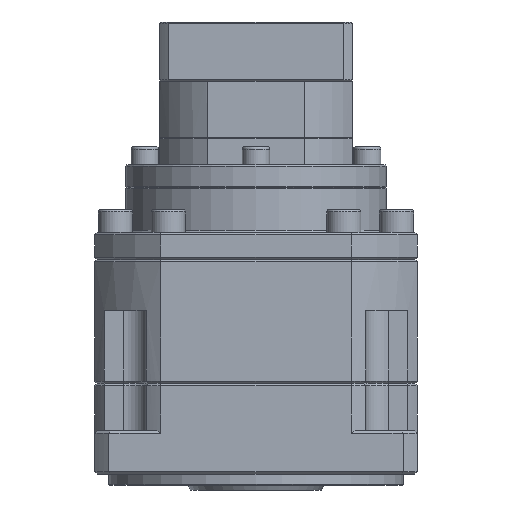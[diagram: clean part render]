
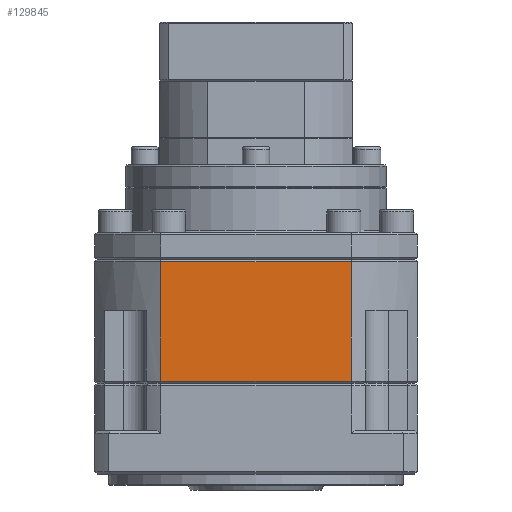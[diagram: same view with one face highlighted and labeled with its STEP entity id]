
A CAD part, front view. The second image highlights one B-rep face of the part: STEP entity #129845.
In plain terms, the highlighted planar face has unit normal (0, -1, 0).
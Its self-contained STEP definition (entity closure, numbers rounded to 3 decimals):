
#833 = CARTESIAN_POINT ( 'NONE',  ( -85.468, -71.589, 298.102 ) ) ;
#2453 = LINE ( 'NONE', #35805, #40786 ) ;
#5040 = VERTEX_POINT ( 'NONE', #66516 ) ;
#6697 = CARTESIAN_POINT ( 'NONE',  ( -85.468, -71.589, 299.102 ) ) ;
#7380 = LINE ( 'NONE', #122612, #82209 ) ;
#9127 = ORIENTED_EDGE ( 'NONE', *, *, #37117, .F. ) ;
#24899 = VERTEX_POINT ( 'NONE', #72143 ) ;
#31706 = CARTESIAN_POINT ( 'NONE',  ( 27.547, -71.589, 299.102 ) ) ;
#35805 = CARTESIAN_POINT ( 'NONE',  ( -1.438, -71.589, 299.102 ) ) ;
#37117 = EDGE_CURVE ( 'NONE', #134670, #24899, #2453, .T. ) ;
#39225 = CARTESIAN_POINT ( 'NONE',  ( -1.438, -71.589, 298.102 ) ) ;
#40786 = VECTOR ( 'NONE', #87879, 1000. ) ;
#43502 = VERTEX_POINT ( 'NONE', #833 ) ;
#48224 = VECTOR ( 'NONE', #55627, 1000. ) ;
#50250 = EDGE_CURVE ( 'NONE', #24899, #5040, #106378, .T. ) ;
#55627 = DIRECTION ( 'NONE',  ( -1., 0., 0. ) ) ;
#64358 = ORIENTED_EDGE ( 'NONE', *, *, #50250, .F. ) ;
#66516 = CARTESIAN_POINT ( 'NONE',  ( -85.468, -71.589, 245.602 ) ) ;
#70702 = PLANE ( 'NONE',  #84195 ) ;
#72143 = CARTESIAN_POINT ( 'NONE',  ( -1.438, -71.589, 245.602 ) ) ;
#76556 = FACE_OUTER_BOUND ( 'NONE', #92216, .T. ) ;
#81071 = DIRECTION ( 'NONE',  ( 0., 0., 1. ) ) ;
#82209 = VECTOR ( 'NONE', #100778, 1000. ) ;
#84195 = AXIS2_PLACEMENT_3D ( 'NONE', #31706, #105164, #106085 ) ;
#86743 = CARTESIAN_POINT ( 'NONE',  ( 27.547, -71.589, 245.602 ) ) ;
#86789 = EDGE_CURVE ( 'NONE', #5040, #43502, #109239, .T. ) ;
#87879 = DIRECTION ( 'NONE',  ( 0., 0., -1. ) ) ;
#92216 = EDGE_LOOP ( 'NONE', ( #135502, #136897, #64358, #9127 ) ) ;
#100778 = DIRECTION ( 'NONE',  ( 1., 0., 0. ) ) ;
#105164 = DIRECTION ( 'NONE',  ( 0., 1., 0. ) ) ;
#106085 = DIRECTION ( 'NONE',  ( -1., 0., 0. ) ) ;
#106378 = LINE ( 'NONE', #86743, #48224 ) ;
#109239 = LINE ( 'NONE', #6697, #115901 ) ;
#115901 = VECTOR ( 'NONE', #81071, 1000. ) ;
#119265 = EDGE_CURVE ( 'NONE', #43502, #134670, #7380, .T. ) ;
#122612 = CARTESIAN_POINT ( 'NONE',  ( -43.453, -71.589, 298.102 ) ) ;
#129845 = ADVANCED_FACE ( 'NONE', ( #76556 ), #70702, .F. ) ;
#134670 = VERTEX_POINT ( 'NONE', #39225 ) ;
#135502 = ORIENTED_EDGE ( 'NONE', *, *, #119265, .F. ) ;
#136897 = ORIENTED_EDGE ( 'NONE', *, *, #86789, .F. ) ;
